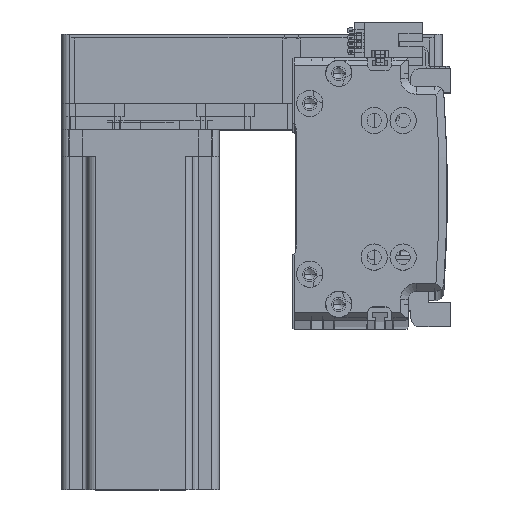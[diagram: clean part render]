
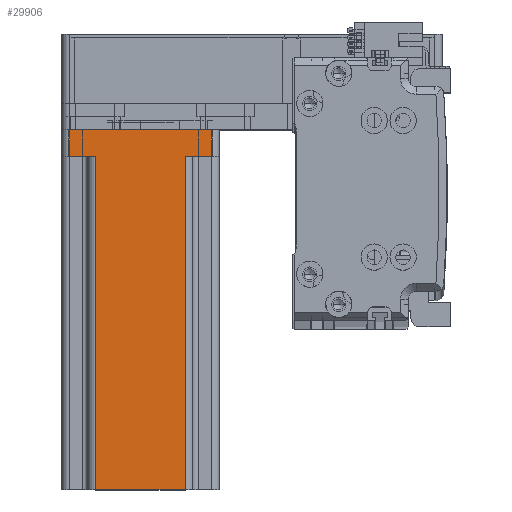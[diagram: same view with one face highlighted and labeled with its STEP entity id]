
A CAD part, top view. The second image highlights one B-rep face of the part: STEP entity #29906.
In plain terms, the highlighted planar face has unit normal (0, 0, 1) as drawn and (0, -1, 0) by its records, which use the part's own axes.
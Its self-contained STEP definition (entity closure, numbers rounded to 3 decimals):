
#140 = CARTESIAN_POINT ( 'NONE',  ( 30., -30., 137. ) ) ;
#481 = DIRECTION ( 'NONE',  ( 1., 0., 0. ) ) ;
#500 = ORIENTED_EDGE ( 'NONE', *, *, #38884, .T. ) ;
#1625 = LINE ( 'NONE', #3012, #54434 ) ;
#3012 = CARTESIAN_POINT ( 'NONE',  ( 17., -30., 137. ) ) ;
#3974 = EDGE_CURVE ( 'NONE', #11014, #24086, #45320, .T. ) ;
#3990 = CARTESIAN_POINT ( 'NONE',  ( 30., -30., 137. ) ) ;
#4655 = ORIENTED_EDGE ( 'NONE', *, *, #38543, .F. ) ;
#5048 = CARTESIAN_POINT ( 'NONE',  ( -17., -30., 137. ) ) ;
#5288 = VECTOR ( 'NONE', #59020, 1000. ) ;
#5292 = VERTEX_POINT ( 'NONE', #33241 ) ;
#6255 = VERTEX_POINT ( 'NONE', #33959 ) ;
#6589 = AXIS2_PLACEMENT_3D ( 'NONE', #3990, #39844, #9124 ) ;
#9124 = DIRECTION ( 'NONE',  ( -1., 0., 0. ) ) ;
#9669 = VERTEX_POINT ( 'NONE', #62068 ) ;
#11014 = VERTEX_POINT ( 'NONE', #49904 ) ;
#13368 = ORIENTED_EDGE ( 'NONE', *, *, #3974, .T. ) ;
#13390 = ORIENTED_EDGE ( 'NONE', *, *, #57492, .F. ) ;
#17008 = CARTESIAN_POINT ( 'NONE',  ( 27., -30., 137. ) ) ;
#19256 = ORIENTED_EDGE ( 'NONE', *, *, #53557, .T. ) ;
#20218 = LINE ( 'NONE', #17008, #42565 ) ;
#24086 = VERTEX_POINT ( 'NONE', #35712 ) ;
#25042 = VERTEX_POINT ( 'NONE', #40315 ) ;
#25766 = EDGE_CURVE ( 'NONE', #43501, #5292, #48566, .T. ) ;
#26016 = VECTOR ( 'NONE', #481, 1000. ) ;
#26611 = VECTOR ( 'NONE', #56477, 1000. ) ;
#26919 = CARTESIAN_POINT ( 'NONE',  ( 20., -30., 10. ) ) ;
#28497 = CARTESIAN_POINT ( 'NONE',  ( -27., -30., 137. ) ) ;
#29906 = ADVANCED_FACE ( 'NONE', ( #44331 ), #54761, .F. ) ;
#30658 = ORIENTED_EDGE ( 'NONE', *, *, #25766, .T. ) ;
#31786 = VECTOR ( 'NONE', #62610, 1000. ) ;
#32698 = DIRECTION ( 'NONE',  ( 1., 0., 0. ) ) ;
#33241 = CARTESIAN_POINT ( 'NONE',  ( -17., -30., 10. ) ) ;
#33704 = DIRECTION ( 'NONE',  ( 0., 0., 1. ) ) ;
#33854 = CARTESIAN_POINT ( 'NONE',  ( -17., -30., 137. ) ) ;
#33959 = CARTESIAN_POINT ( 'NONE',  ( -27., -30., 10. ) ) ;
#35076 = EDGE_CURVE ( 'NONE', #25042, #9669, #39617, .T. ) ;
#35712 = CARTESIAN_POINT ( 'NONE',  ( 17., -30., 10. ) ) ;
#35735 = DIRECTION ( 'NONE',  ( 0., 0., -1. ) ) ;
#35776 = LINE ( 'NONE', #63272, #47710 ) ;
#38543 = EDGE_CURVE ( 'NONE', #43501, #43863, #65745, .T. ) ;
#38884 = EDGE_CURVE ( 'NONE', #24086, #43863, #1625, .T. ) ;
#39617 = LINE ( 'NONE', #51473, #26016 ) ;
#39844 = DIRECTION ( 'NONE',  ( 0., 1., 0. ) ) ;
#40198 = EDGE_CURVE ( 'NONE', #6255, #25042, #61313, .T. ) ;
#40315 = CARTESIAN_POINT ( 'NONE',  ( -27., -30., 0. ) ) ;
#40900 = ORIENTED_EDGE ( 'NONE', *, *, #40198, .T. ) ;
#42565 = VECTOR ( 'NONE', #63050, 1000. ) ;
#43501 = VERTEX_POINT ( 'NONE', #33854 ) ;
#43863 = VERTEX_POINT ( 'NONE', #53169 ) ;
#44331 = FACE_OUTER_BOUND ( 'NONE', #47794, .T. ) ;
#45320 = LINE ( 'NONE', #26919, #31786 ) ;
#47710 = VECTOR ( 'NONE', #32698, 1000. ) ;
#47794 = EDGE_LOOP ( 'NONE', ( #4655, #30658, #13390, #40900, #58950, #19256, #13368, #500 ) ) ;
#48566 = LINE ( 'NONE', #5048, #62156 ) ;
#49904 = CARTESIAN_POINT ( 'NONE',  ( 27., -30., 10. ) ) ;
#51473 = CARTESIAN_POINT ( 'NONE',  ( 30., -30., 0. ) ) ;
#53169 = CARTESIAN_POINT ( 'NONE',  ( 17., -30., 137. ) ) ;
#53557 = EDGE_CURVE ( 'NONE', #9669, #11014, #20218, .T. ) ;
#54434 = VECTOR ( 'NONE', #33704, 1000. ) ;
#54761 = PLANE ( 'NONE',  #6589 ) ;
#56477 = DIRECTION ( 'NONE',  ( 1., 0., 0. ) ) ;
#57492 = EDGE_CURVE ( 'NONE', #6255, #5292, #35776, .T. ) ;
#58950 = ORIENTED_EDGE ( 'NONE', *, *, #35076, .T. ) ;
#59020 = DIRECTION ( 'NONE',  ( 0., 0., -1. ) ) ;
#61313 = LINE ( 'NONE', #28497, #5288 ) ;
#62068 = CARTESIAN_POINT ( 'NONE',  ( 27., -30., 0. ) ) ;
#62156 = VECTOR ( 'NONE', #35735, 1000. ) ;
#62610 = DIRECTION ( 'NONE',  ( -1., 0., 0. ) ) ;
#63050 = DIRECTION ( 'NONE',  ( 0., 0., 1. ) ) ;
#63272 = CARTESIAN_POINT ( 'NONE',  ( -20., -30., 10. ) ) ;
#65745 = LINE ( 'NONE', #140, #26611 ) ;
